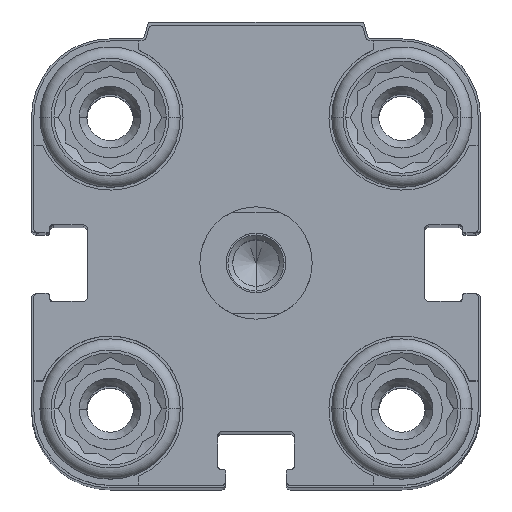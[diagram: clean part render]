
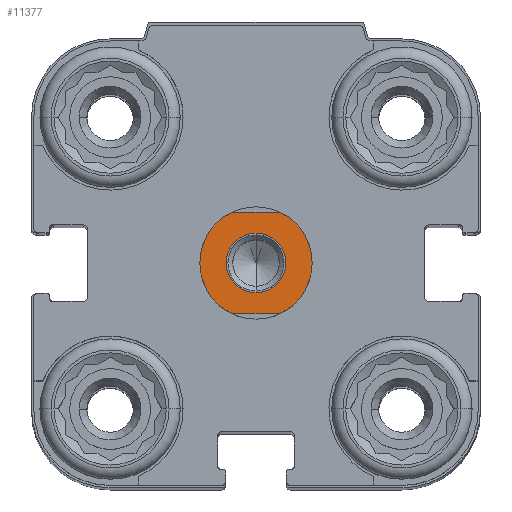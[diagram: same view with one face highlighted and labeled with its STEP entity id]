
A CAD part, top view. The second image highlights one B-rep face of the part: STEP entity #11377.
In plain terms, the highlighted planar face has unit normal (0, 0, 1).
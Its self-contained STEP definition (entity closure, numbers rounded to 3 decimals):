
#559 = CIRCLE ( 'NONE', #7440, 2.65 ) ;
#727 = VECTOR ( 'NONE', #14087, 1000. ) ;
#947 = VERTEX_POINT ( 'NONE', #11518 ) ;
#1012 = AXIS2_PLACEMENT_3D ( 'NONE', #1463, #8300, #13924 ) ;
#1463 = CARTESIAN_POINT ( 'NONE',  ( 0., 0., 5.5 ) ) ;
#1734 = EDGE_LOOP ( 'NONE', ( #10182, #12902 ) ) ;
#1921 = VERTEX_POINT ( 'NONE', #16027 ) ;
#2270 = DIRECTION ( 'NONE',  ( 0., 1., 0. ) ) ;
#2405 = VERTEX_POINT ( 'NONE', #8375 ) ;
#2451 = EDGE_CURVE ( 'NONE', #2405, #9431, #14501, .T. ) ;
#2519 = EDGE_CURVE ( 'NONE', #947, #3625, #12432, .T. ) ;
#2630 = FACE_OUTER_BOUND ( 'NONE', #11801, .T. ) ;
#2829 = CARTESIAN_POINT ( 'NONE',  ( 0., 0., 5.5 ) ) ;
#2854 = DIRECTION ( 'NONE',  ( 0., 0., -1. ) ) ;
#3596 = CIRCLE ( 'NONE', #14051, 5. ) ;
#3625 = VERTEX_POINT ( 'NONE', #16370 ) ;
#3953 = ORIENTED_EDGE ( 'NONE', *, *, #13077, .F. ) ;
#4086 = CARTESIAN_POINT ( 'NONE',  ( 2.179, -4.5, 5.5 ) ) ;
#4822 = CARTESIAN_POINT ( 'NONE',  ( 0., 0., 5.5 ) ) ;
#4984 = LINE ( 'NONE', #6480, #5987 ) ;
#5132 = AXIS2_PLACEMENT_3D ( 'NONE', #2829, #8540, #7130 ) ;
#5234 = VERTEX_POINT ( 'NONE', #7632 ) ;
#5776 = CARTESIAN_POINT ( 'NONE',  ( 0., 0., 5.5 ) ) ;
#5987 = VECTOR ( 'NONE', #10673, 1000. ) ;
#6480 = CARTESIAN_POINT ( 'NONE',  ( 9., -4.5, 5.5 ) ) ;
#6483 = DIRECTION ( 'NONE',  ( 0., 0., -1. ) ) ;
#6749 = EDGE_CURVE ( 'NONE', #1921, #5234, #559, .T. ) ;
#7130 = DIRECTION ( 'NONE',  ( 0., 1., 0. ) ) ;
#7195 = EDGE_CURVE ( 'NONE', #5234, #1921, #11936, .T. ) ;
#7440 = AXIS2_PLACEMENT_3D ( 'NONE', #4822, #10614, #2270 ) ;
#7632 = CARTESIAN_POINT ( 'NONE',  ( 0., 2.65, 5.5 ) ) ;
#8197 = CARTESIAN_POINT ( 'NONE',  ( -9., 4.5, 5.5 ) ) ;
#8255 = AXIS2_PLACEMENT_3D ( 'NONE', #5776, #2854, #9966 ) ;
#8300 = DIRECTION ( 'NONE',  ( 0., 0., -1. ) ) ;
#8375 = CARTESIAN_POINT ( 'NONE',  ( 5., 0., 5.5 ) ) ;
#8540 = DIRECTION ( 'NONE',  ( 0., 0., -1. ) ) ;
#8654 = ORIENTED_EDGE ( 'NONE', *, *, #2451, .F. ) ;
#8817 = AXIS2_PLACEMENT_3D ( 'NONE', #13991, #13815, #12407 ) ;
#9022 = VERTEX_POINT ( 'NONE', #14296 ) ;
#9431 = VERTEX_POINT ( 'NONE', #4086 ) ;
#9966 = DIRECTION ( 'NONE',  ( -1., 0., 0. ) ) ;
#10182 = ORIENTED_EDGE ( 'NONE', *, *, #7195, .T. ) ;
#10189 = DIRECTION ( 'NONE',  ( -1., 0., 0. ) ) ;
#10474 = DIRECTION ( 'NONE',  ( 0., 0., -1. ) ) ;
#10614 = DIRECTION ( 'NONE',  ( 0., 0., -1. ) ) ;
#10673 = DIRECTION ( 'NONE',  ( -1., 0., 0. ) ) ;
#11377 = ADVANCED_FACE ( 'NONE', ( #2630, #12749 ), #17079, .F. ) ;
#11518 = CARTESIAN_POINT ( 'NONE',  ( -5., 0., 5.5 ) ) ;
#11801 = EDGE_LOOP ( 'NONE', ( #12784, #13255, #17774, #17515, #8654, #3953 ) ) ;
#11877 = CARTESIAN_POINT ( 'NONE',  ( 0., 0., 5.5 ) ) ;
#11936 = CIRCLE ( 'NONE', #15258, 2.65 ) ;
#12370 = CIRCLE ( 'NONE', #1012, 5. ) ;
#12407 = DIRECTION ( 'NONE',  ( -1., 0., 0. ) ) ;
#12432 = CIRCLE ( 'NONE', #8255, 5. ) ;
#12749 = FACE_BOUND ( 'NONE', #1734, .T. ) ;
#12784 = ORIENTED_EDGE ( 'NONE', *, *, #15724, .F. ) ;
#12902 = ORIENTED_EDGE ( 'NONE', *, *, #6749, .T. ) ;
#13077 = EDGE_CURVE ( 'NONE', #15126, #2405, #3596, .T. ) ;
#13255 = ORIENTED_EDGE ( 'NONE', *, *, #2519, .F. ) ;
#13815 = DIRECTION ( 'NONE',  ( 0., 0., -1. ) ) ;
#13924 = DIRECTION ( 'NONE',  ( -1., 0., 0. ) ) ;
#13991 = CARTESIAN_POINT ( 'NONE',  ( 0., 0., 5.5 ) ) ;
#14051 = AXIS2_PLACEMENT_3D ( 'NONE', #11877, #10474, #10189 ) ;
#14087 = DIRECTION ( 'NONE',  ( 1., 0., 0. ) ) ;
#14296 = CARTESIAN_POINT ( 'NONE',  ( -2.179, -4.5, 5.5 ) ) ;
#14501 = CIRCLE ( 'NONE', #8817, 5. ) ;
#15126 = VERTEX_POINT ( 'NONE', #15168 ) ;
#15168 = CARTESIAN_POINT ( 'NONE',  ( 2.179, 4.5, 5.5 ) ) ;
#15258 = AXIS2_PLACEMENT_3D ( 'NONE', #16502, #6483, #16130 ) ;
#15321 = EDGE_CURVE ( 'NONE', #9022, #947, #12370, .T. ) ;
#15724 = EDGE_CURVE ( 'NONE', #3625, #15126, #17108, .T. ) ;
#16027 = CARTESIAN_POINT ( 'NONE',  ( 0., -2.65, 5.5 ) ) ;
#16130 = DIRECTION ( 'NONE',  ( 0., 1., 0. ) ) ;
#16370 = CARTESIAN_POINT ( 'NONE',  ( -2.179, 4.5, 5.5 ) ) ;
#16502 = CARTESIAN_POINT ( 'NONE',  ( 0., 0., 5.5 ) ) ;
#17079 = PLANE ( 'NONE',  #5132 ) ;
#17108 = LINE ( 'NONE', #8197, #727 ) ;
#17515 = ORIENTED_EDGE ( 'NONE', *, *, #18501, .F. ) ;
#17774 = ORIENTED_EDGE ( 'NONE', *, *, #15321, .F. ) ;
#18501 = EDGE_CURVE ( 'NONE', #9431, #9022, #4984, .T. ) ;
